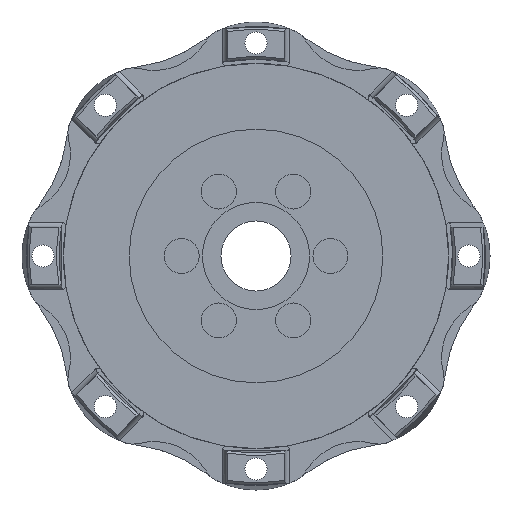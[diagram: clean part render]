
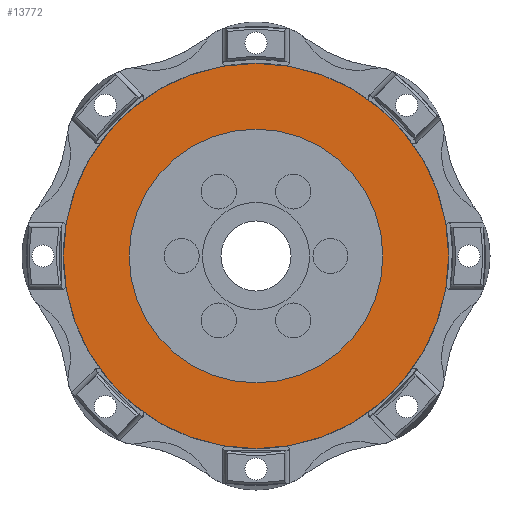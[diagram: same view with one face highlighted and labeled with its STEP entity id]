
A CAD part, left-side view. The second image highlights one B-rep face of the part: STEP entity #13772.
In plain terms, the highlighted planar face has unit normal (-1, 0, 0).
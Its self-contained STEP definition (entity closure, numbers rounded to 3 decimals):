
#3905=ORIENTED_EDGE('',*,*,#7918,.F.);
#3906=ORIENTED_EDGE('',*,*,#7214,.T.);
#7214=EDGE_CURVE('',#9333,#9333,#10720,.T.);
#7918=EDGE_CURVE('',#9820,#9820,#10993,.T.);
#9333=VERTEX_POINT('',#19963);
#9820=VERTEX_POINT('',#21465);
#10720=CIRCLE('',#14369,69.85);
#10993=CIRCLE('',#14869,45.974);
#11636=EDGE_LOOP('',(#3905));
#11637=EDGE_LOOP('',(#3906));
#12538=FACE_BOUND('',#11636,.T.);
#12539=FACE_BOUND('',#11637,.T.);
#13275=PLANE('',#14870);
#13772=ADVANCED_FACE('',(#12538,#12539),#13275,.T.);
#14369=AXIS2_PLACEMENT_3D('',#19962,#15939,#15940);
#14869=AXIS2_PLACEMENT_3D('',#21464,#17346,#17347);
#14870=AXIS2_PLACEMENT_3D('',#21466,#17348,#17349);
#15939=DIRECTION('',(-1.,0.,0.));
#15940=DIRECTION('',(0.,0.,1.));
#17346=DIRECTION('',(-1.,0.,0.));
#17347=DIRECTION('',(0.,0.,1.));
#17348=DIRECTION('',(-1.,0.,0.));
#17349=DIRECTION('',(0.,0.,1.));
#19962=CARTESIAN_POINT('',(9.703,0.,0.));
#19963=CARTESIAN_POINT('',(9.703,0.,69.85));
#21464=CARTESIAN_POINT('',(9.703,0.,0.));
#21465=CARTESIAN_POINT('',(9.703,0.,45.974));
#21466=CARTESIAN_POINT('',(9.703,0.,69.85));
